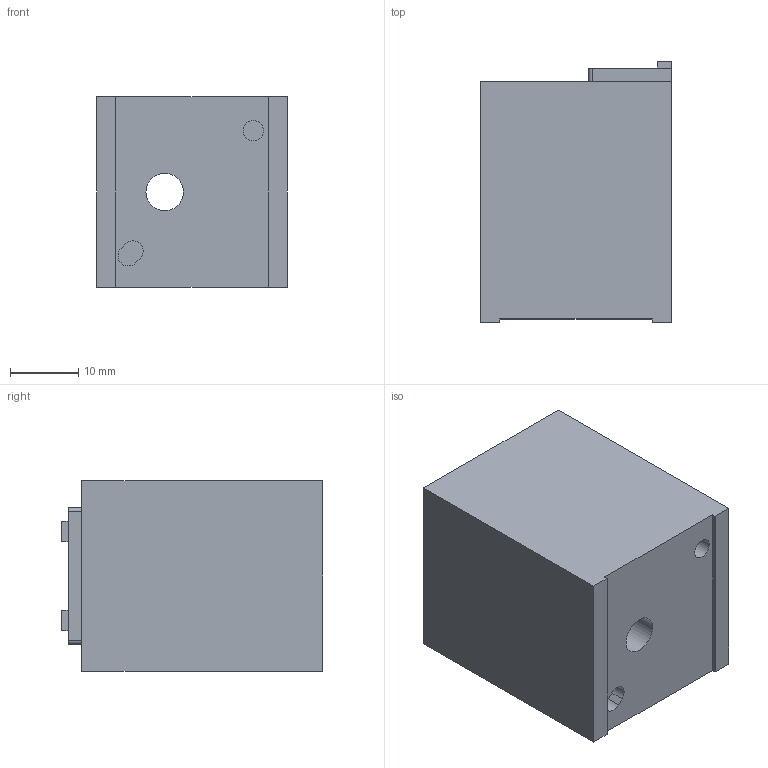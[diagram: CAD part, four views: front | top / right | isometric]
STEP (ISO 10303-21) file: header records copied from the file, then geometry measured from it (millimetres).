
FILE_DESCRIPTION(/* description */ (''),/* implementation_level */ '2;1');
FILE_NAME(/* name */ 'C:\Users\strothej\Documents\ActualDocuments\MicroscopeParts\TwoPhotonSystem\ScanningMechanics\v34\Drawings\Adapter_Breadboard_Kinematic_Mount_Small50.stp',/* time_stamp */ '2017-09-05T14:59:05-07:00',/* author */ ('strothej'),/* organization */ (''),/* preprocessor_version */ 'ST-DEVELOPER v16.1',/* originating_system */ 'Autodesk Inventor 2016',/* authorisation */ '');
FILE_SCHEMA (('AUTOMOTIVE_DESIGN { 1 0 10303 214 3 1 1 }'));
Length unit declared in the file: millimetre
Products named in the file (1): Adapter_Breadboard_Kinematic_Mount_Small50
Bounding box: 28 x 38.31 x 28 mm (x, y, z)
Volume: 25621.8 mm3; surface area: 6795.7 mm2
Topology: 1 solids, 1 shells, 36 faces, 92 edges, 61 vertices
Faces by surface type: plane 27, cylinder 8, cone 1
Full cylindrical faces by diameter (mm): 3 x1, 3.242 x1, 5.5 x1, 9.5 x1
Entity records: 1078 total; most frequent: CARTESIAN_POINT 183, DIRECTION 176, ORIENTED_EDGE 172, EDGE_CURVE 86, LINE 70, VECTOR 70, VERTEX_POINT 60, AXIS2_PLACEMENT_3D 53
